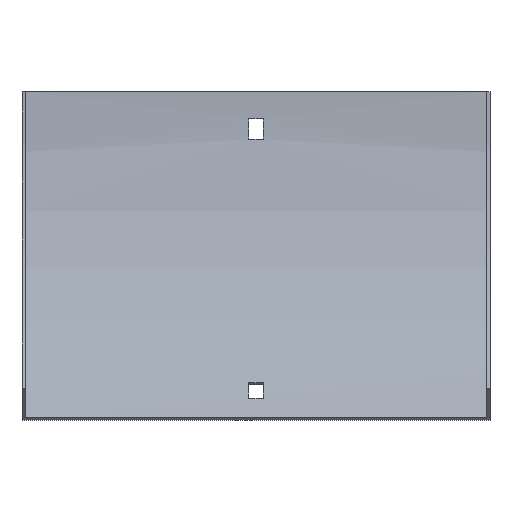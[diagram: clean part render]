
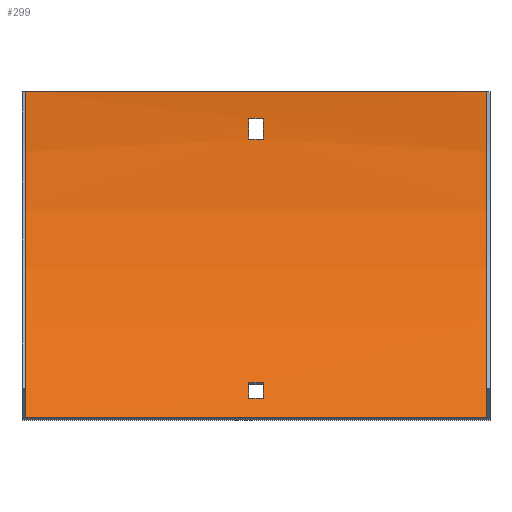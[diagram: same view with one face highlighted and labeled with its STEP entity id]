
A CAD part, front view. The second image highlights one B-rep face of the part: STEP entity #299.
In plain terms, the highlighted cylindrical face has radius 204 mm (diameter 408 mm), a partial arc.
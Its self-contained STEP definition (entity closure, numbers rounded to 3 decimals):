
#7 = DIRECTION ( 'NONE',  ( -1., 0., 0. ) ) ;
#11 = CIRCLE ( 'NONE', #337, 204. ) ;
#12 = VECTOR ( 'NONE', #550, 1000. ) ;
#22 = ORIENTED_EDGE ( 'NONE', *, *, #103, .T. ) ;
#33 = CARTESIAN_POINT ( 'NONE',  ( 3.25, -205.5, 0. ) ) ;
#35 = DIRECTION ( 'NONE',  ( 0., 0., 1. ) ) ;
#37 = DIRECTION ( 'NONE',  ( 1., 0., 0. ) ) ;
#38 = VECTOR ( 'NONE', #475, 1000. ) ;
#49 = DIRECTION ( 'NONE',  ( 0., 0., 1. ) ) ;
#50 = VERTEX_POINT ( 'NONE', #463 ) ;
#53 = AXIS2_PLACEMENT_3D ( 'NONE', #69, #167, #35 ) ;
#54 = EDGE_LOOP ( 'NONE', ( #22, #93, #274, #446 ) ) ;
#67 = AXIS2_PLACEMENT_3D ( 'NONE', #178, #37, #304 ) ;
#69 = CARTESIAN_POINT ( 'NONE',  ( 3.25, -205.5, 0. ) ) ;
#85 = EDGE_CURVE ( 'NONE', #566, #325, #410, .T. ) ;
#88 = VECTOR ( 'NONE', #7, 1000. ) ;
#93 = ORIENTED_EDGE ( 'NONE', *, *, #276, .T. ) ;
#99 = CARTESIAN_POINT ( 'NONE',  ( 103.5, -2.584, -21. ) ) ;
#103 = EDGE_CURVE ( 'NONE', #412, #472, #313, .T. ) ;
#109 = VERTEX_POINT ( 'NONE', #267 ) ;
#112 = EDGE_CURVE ( 'NONE', #197, #566, #370, .T. ) ;
#114 = DIRECTION ( 'NONE',  ( -1., 0., 0. ) ) ;
#125 = DIRECTION ( 'NONE',  ( -1., 0., 0. ) ) ;
#127 = DIRECTION ( 'NONE',  ( -1., 0., 0. ) ) ;
#132 = DIRECTION ( 'NONE',  ( 0., 0., 1. ) ) ;
#152 = DIRECTION ( 'NONE',  ( 0., 0., 1. ) ) ;
#153 = CIRCLE ( 'NONE', #161, 204. ) ;
#154 = CARTESIAN_POINT ( 'NONE',  ( -102., -61.25, -144.25 ) ) ;
#161 = AXIS2_PLACEMENT_3D ( 'NONE', #464, #310, #317 ) ;
#162 = EDGE_LOOP ( 'NONE', ( #467, #231, #595, #436 ) ) ;
#167 = DIRECTION ( 'NONE',  ( -1., 0., 0. ) ) ;
#169 = CARTESIAN_POINT ( 'NONE',  ( 3.25, -2.584, -21. ) ) ;
#170 = VECTOR ( 'NONE', #127, 1000. ) ;
#171 = DIRECTION ( 'NONE',  ( 0., 0., -1. ) ) ;
#172 = EDGE_CURVE ( 'NONE', #50, #469, #437, .T. ) ;
#173 = CIRCLE ( 'NONE', #53, 204. ) ;
#178 = CARTESIAN_POINT ( 'NONE',  ( -3.25, -205.5, 0. ) ) ;
#179 = LINE ( 'NONE', #293, #170 ) ;
#185 = CARTESIAN_POINT ( 'NONE',  ( 3.25, -53.015, -135.515 ) ) ;
#194 = VERTEX_POINT ( 'NONE', #356 ) ;
#195 = VERTEX_POINT ( 'NONE', #169 ) ;
#197 = VERTEX_POINT ( 'NONE', #347 ) ;
#199 = EDGE_CURVE ( 'NONE', #109, #545, #179, .T. ) ;
#202 = CARTESIAN_POINT ( 'NONE',  ( 103.5, -47.167, -128.634 ) ) ;
#208 = CIRCLE ( 'NONE', #67, 204. ) ;
#216 = EDGE_CURVE ( 'NONE', #195, #109, #11, .T. ) ;
#224 = CARTESIAN_POINT ( 'NONE',  ( -3.25, -53.015, -135.515 ) ) ;
#231 = ORIENTED_EDGE ( 'NONE', *, *, #112, .F. ) ;
#234 = DIRECTION ( 'NONE',  ( 1., 0., 0. ) ) ;
#235 = ORIENTED_EDGE ( 'NONE', *, *, #480, .F. ) ;
#237 = CARTESIAN_POINT ( 'NONE',  ( -3.25, -1.853, -12. ) ) ;
#239 = FACE_BOUND ( 'NONE', #329, .T. ) ;
#244 = CARTESIAN_POINT ( 'NONE',  ( 102., -1.5, 0. ) ) ;
#259 = EDGE_CURVE ( 'NONE', #517, #325, #546, .T. ) ;
#267 = CARTESIAN_POINT ( 'NONE',  ( 3.25, -1.853, -12. ) ) ;
#274 = ORIENTED_EDGE ( 'NONE', *, *, #172, .T. ) ;
#276 = EDGE_CURVE ( 'NONE', #472, #50, #208, .T. ) ;
#282 = LINE ( 'NONE', #99, #38 ) ;
#284 = FACE_BOUND ( 'NONE', #54, .T. ) ;
#293 = CARTESIAN_POINT ( 'NONE',  ( 103.5, -1.853, -12. ) ) ;
#298 = CIRCLE ( 'NONE', #390, 204. ) ;
#299 = ADVANCED_FACE ( 'NONE', ( #239, #388, #284 ), #577, .F. ) ;
#304 = DIRECTION ( 'NONE',  ( 0., 0., -1. ) ) ;
#309 = ORIENTED_EDGE ( 'NONE', *, *, #597, .F. ) ;
#310 = DIRECTION ( 'NONE',  ( 1., 0., 0. ) ) ;
#313 = LINE ( 'NONE', #514, #88 ) ;
#317 = DIRECTION ( 'NONE',  ( 0., 0., 1. ) ) ;
#325 = VERTEX_POINT ( 'NONE', #496 ) ;
#328 = AXIS2_PLACEMENT_3D ( 'NONE', #559, #234, #132 ) ;
#329 = EDGE_LOOP ( 'NONE', ( #235, #574, #591, #309 ) ) ;
#336 = VECTOR ( 'NONE', #125, 1000. ) ;
#337 = AXIS2_PLACEMENT_3D ( 'NONE', #33, #411, #171 ) ;
#347 = CARTESIAN_POINT ( 'NONE',  ( 102., -61.25, -144.25 ) ) ;
#356 = CARTESIAN_POINT ( 'NONE',  ( -3.25, -2.584, -21. ) ) ;
#366 = EDGE_CURVE ( 'NONE', #469, #412, #173, .T. ) ;
#370 = LINE ( 'NONE', #395, #430 ) ;
#373 = CARTESIAN_POINT ( 'NONE',  ( 3.25, -47.167, -128.634 ) ) ;
#388 = FACE_OUTER_BOUND ( 'NONE', #162, .T. ) ;
#390 = AXIS2_PLACEMENT_3D ( 'NONE', #415, #431, #49 ) ;
#392 = CARTESIAN_POINT ( 'NONE',  ( 103.5, -205.5, 0. ) ) ;
#395 = CARTESIAN_POINT ( 'NONE',  ( 102., -61.25, -144.25 ) ) ;
#401 = EDGE_CURVE ( 'NONE', #197, #517, #153, .T. ) ;
#410 = CIRCLE ( 'NONE', #328, 204. ) ;
#411 = DIRECTION ( 'NONE',  ( 1., 0., 0. ) ) ;
#412 = VERTEX_POINT ( 'NONE', #185 ) ;
#415 = CARTESIAN_POINT ( 'NONE',  ( -3.25, -205.5, 0. ) ) ;
#430 = VECTOR ( 'NONE', #114, 1000. ) ;
#431 = DIRECTION ( 'NONE',  ( -1., 0., 0. ) ) ;
#436 = ORIENTED_EDGE ( 'NONE', *, *, #259, .T. ) ;
#437 = LINE ( 'NONE', #202, #12 ) ;
#446 = ORIENTED_EDGE ( 'NONE', *, *, #366, .T. ) ;
#463 = CARTESIAN_POINT ( 'NONE',  ( -3.25, -47.167, -128.634 ) ) ;
#464 = CARTESIAN_POINT ( 'NONE',  ( 102., -205.5, 0. ) ) ;
#467 = ORIENTED_EDGE ( 'NONE', *, *, #85, .F. ) ;
#469 = VERTEX_POINT ( 'NONE', #373 ) ;
#472 = VERTEX_POINT ( 'NONE', #224 ) ;
#475 = DIRECTION ( 'NONE',  ( 1., 0., 0. ) ) ;
#480 = EDGE_CURVE ( 'NONE', #545, #194, #298, .T. ) ;
#487 = DIRECTION ( 'NONE',  ( -1., 0., 0. ) ) ;
#496 = CARTESIAN_POINT ( 'NONE',  ( -102., -1.5, 0. ) ) ;
#514 = CARTESIAN_POINT ( 'NONE',  ( 103.5, -53.015, -135.515 ) ) ;
#517 = VERTEX_POINT ( 'NONE', #244 ) ;
#545 = VERTEX_POINT ( 'NONE', #237 ) ;
#546 = LINE ( 'NONE', #549, #336 ) ;
#549 = CARTESIAN_POINT ( 'NONE',  ( 102., -1.5, 0. ) ) ;
#550 = DIRECTION ( 'NONE',  ( 1., 0., 0. ) ) ;
#559 = CARTESIAN_POINT ( 'NONE',  ( -102., -205.5, 0. ) ) ;
#566 = VERTEX_POINT ( 'NONE', #154 ) ;
#574 = ORIENTED_EDGE ( 'NONE', *, *, #199, .F. ) ;
#577 = CYLINDRICAL_SURFACE ( 'NONE', #606, 204. ) ;
#591 = ORIENTED_EDGE ( 'NONE', *, *, #216, .F. ) ;
#595 = ORIENTED_EDGE ( 'NONE', *, *, #401, .T. ) ;
#597 = EDGE_CURVE ( 'NONE', #194, #195, #282, .T. ) ;
#606 = AXIS2_PLACEMENT_3D ( 'NONE', #392, #487, #152 ) ;
